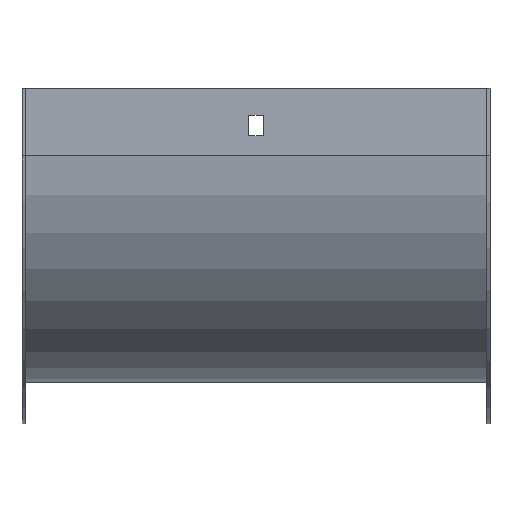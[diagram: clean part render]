
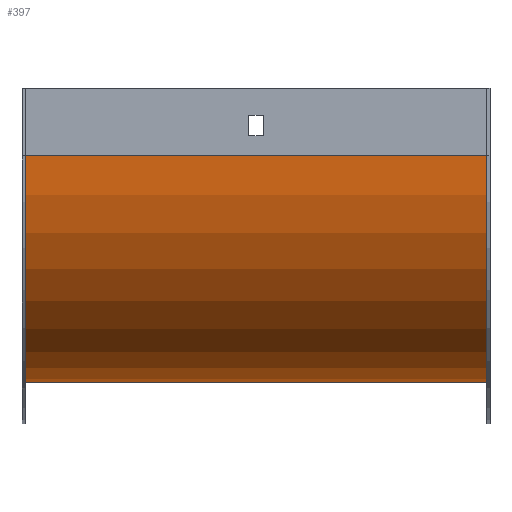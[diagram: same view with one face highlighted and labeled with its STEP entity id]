
A CAD part, front view. The second image highlights one B-rep face of the part: STEP entity #397.
In plain terms, the highlighted cylindrical face has radius 100 mm (diameter 200 mm), a partial arc.
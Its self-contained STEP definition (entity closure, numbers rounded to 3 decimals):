
#29 = DIRECTION ( 'NONE',  ( -1., 0., 0. ) ) ;
#42 = VERTEX_POINT ( 'NONE', #696 ) ;
#94 = DIRECTION ( 'NONE',  ( 0., 0., 1. ) ) ;
#132 = CARTESIAN_POINT ( 'NONE',  ( -102., 98.5, -130. ) ) ;
#134 = VERTEX_POINT ( 'NONE', #251 ) ;
#156 = AXIS2_PLACEMENT_3D ( 'NONE', #166, #363, #94 ) ;
#166 = CARTESIAN_POINT ( 'NONE',  ( 103.5, 98.5, -30. ) ) ;
#189 = AXIS2_PLACEMENT_3D ( 'NONE', #626, #29, #750 ) ;
#201 = ORIENTED_EDGE ( 'NONE', *, *, #322, .T. ) ;
#236 = ORIENTED_EDGE ( 'NONE', *, *, #441, .F. ) ;
#251 = CARTESIAN_POINT ( 'NONE',  ( 102., 98.5, -130. ) ) ;
#276 = DIRECTION ( 'NONE',  ( -1., 0., 0. ) ) ;
#297 = VERTEX_POINT ( 'NONE', #325 ) ;
#300 = DIRECTION ( 'NONE',  ( -1., 0., 0. ) ) ;
#322 = EDGE_CURVE ( 'NONE', #297, #42, #593, .T. ) ;
#325 = CARTESIAN_POINT ( 'NONE',  ( 102., -1.5, -30. ) ) ;
#339 = VECTOR ( 'NONE', #276, 1000. ) ;
#359 = FACE_OUTER_BOUND ( 'NONE', #706, .T. ) ;
#363 = DIRECTION ( 'NONE',  ( -1., 0., 0. ) ) ;
#397 = ADVANCED_FACE ( 'NONE', ( #359 ), #823, .T. ) ;
#441 = EDGE_CURVE ( 'NONE', #558, #42, #646, .T. ) ;
#448 = VECTOR ( 'NONE', #451, 1000. ) ;
#451 = DIRECTION ( 'NONE',  ( -1., 0., 0. ) ) ;
#554 = DIRECTION ( 'NONE',  ( 0., 0., -1. ) ) ;
#558 = VERTEX_POINT ( 'NONE', #132 ) ;
#587 = CARTESIAN_POINT ( 'NONE',  ( 103.5, 98.5, -130. ) ) ;
#593 = LINE ( 'NONE', #613, #339 ) ;
#613 = CARTESIAN_POINT ( 'NONE',  ( 103.5, -1.5, -30. ) ) ;
#619 = EDGE_CURVE ( 'NONE', #134, #558, #791, .T. ) ;
#621 = ORIENTED_EDGE ( 'NONE', *, *, #765, .T. ) ;
#626 = CARTESIAN_POINT ( 'NONE',  ( 102., 98.5, -30. ) ) ;
#643 = CIRCLE ( 'NONE', #189, 100. ) ;
#646 = CIRCLE ( 'NONE', #708, 100. ) ;
#687 = ORIENTED_EDGE ( 'NONE', *, *, #619, .F. ) ;
#695 = CARTESIAN_POINT ( 'NONE',  ( -102., 98.5, -30. ) ) ;
#696 = CARTESIAN_POINT ( 'NONE',  ( -102., -1.5, -30. ) ) ;
#706 = EDGE_LOOP ( 'NONE', ( #236, #687, #621, #201 ) ) ;
#708 = AXIS2_PLACEMENT_3D ( 'NONE', #695, #300, #554 ) ;
#750 = DIRECTION ( 'NONE',  ( 0., 0., -1. ) ) ;
#765 = EDGE_CURVE ( 'NONE', #134, #297, #643, .T. ) ;
#791 = LINE ( 'NONE', #587, #448 ) ;
#823 = CYLINDRICAL_SURFACE ( 'NONE', #156, 100. ) ;
